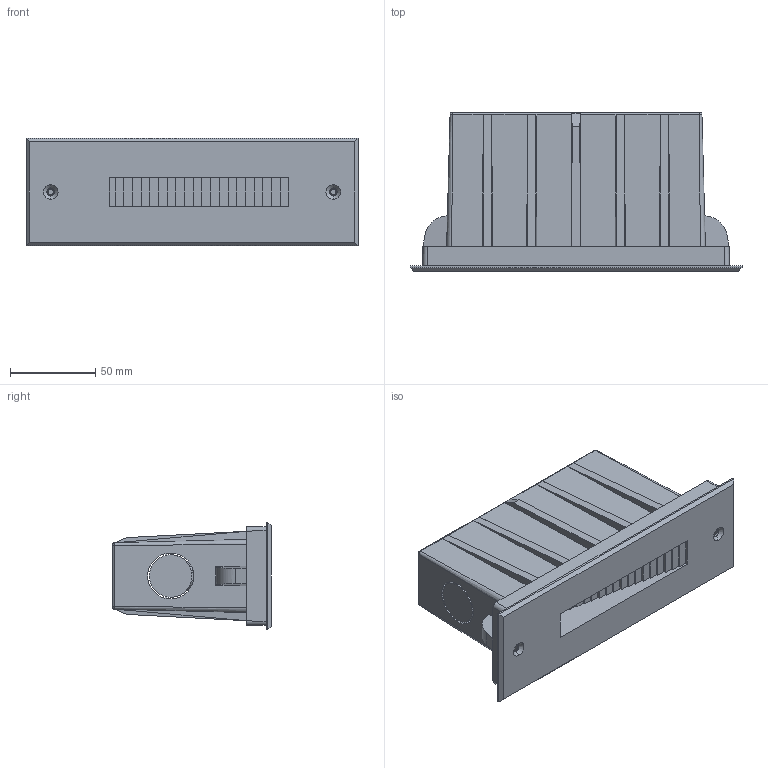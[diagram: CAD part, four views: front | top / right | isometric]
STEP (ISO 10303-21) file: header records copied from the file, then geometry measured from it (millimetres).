
FILE_DESCRIPTION((''),'2;1');
FILE_NAME('B2FL0356_ASM_2_ASM','2016-09-22T',('Administrator'),(''),'CREO PARAMETRIC BY PTC INC, 2015290','CREO PARAMETRIC BY PTC INC, 2015290','');
FILE_SCHEMA(('AUTOMOTIVE_DESIGN { 1 0 10303 214 1 1 1 1 }'));
Length unit declared in the file: millimetre
Products named in the file (11): CROSS_RECESSED_COUNTERSUN-21182; 2BL-A____-57305_1; 2BL-A_______1; 2BL-A____-46297_1; 2FL-ZHICHENGBAN; 2FL-LVJIBAN; 6I-LENS; 2FL-BOLI; PGB9_______1; MIFENGQUAN_03; B2FL0356_ASM_2_ASM
Assembly tree (15 placements, depth 2):
  B2FL0356_ASM_2_ASM
    CROSS_RECESSED_COUNTERSUN-21182  x6
    2BL-A____-57305_1
    2BL-A_______1
    2BL-A____-46297_1
    2FL-ZHICHENGBAN
    2FL-LVJIBAN
    6I-LENS
    2FL-BOLI
    PGB9_______1
    MIFENGQUAN_03
Bounding box: 195 x 93 x 63 mm (x, y, z)
Volume: 244202.6 mm3; surface area: 181105.4 mm2
Topology: 15 solids, 15 shells, 1517 faces, 4131 edges, 2694 vertices
Faces by surface type: plane 686, cylinder 358, sphere 296, cone 122, extrusion 27, torus 14, bspline 12, revolution 2
Entity records: 61854 total; most frequent: CARTESIAN_POINT 14058, ORIENTED_EDGE 7610, DIRECTION 6663, PRESENTATION_STYLE_ASSIGNMENT 3815, STYLED_ITEM 3815, EDGE_CURVE 3805, CURVE_STYLE 3531, VERTEX_POINT 2494
